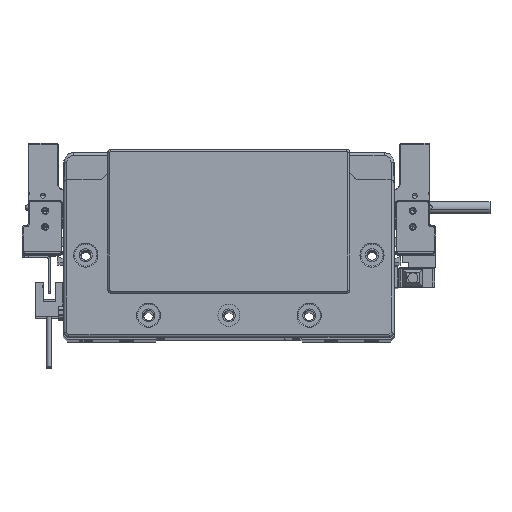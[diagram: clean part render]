
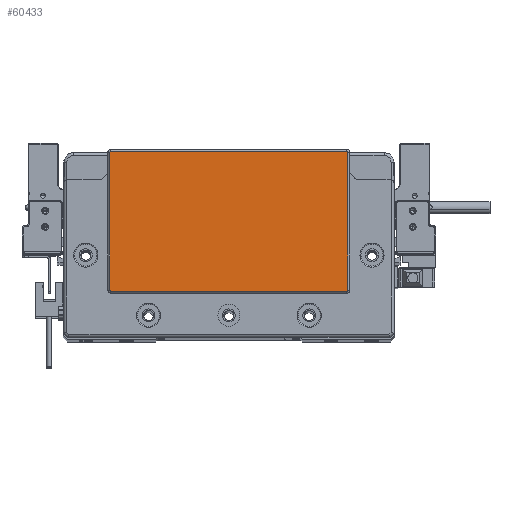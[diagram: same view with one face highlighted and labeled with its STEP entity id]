
A CAD part, top view. The second image highlights one B-rep face of the part: STEP entity #60433.
In plain terms, the highlighted planar face has unit normal (0, 0, 1) as drawn and (0, 0, -1) by its records, which use the part's own axes.
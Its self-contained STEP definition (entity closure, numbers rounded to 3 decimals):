
#516 = LINE ( 'NONE', #30900, #63708 ) ;
#1592 = AXIS2_PLACEMENT_3D ( 'NONE', #95795, #35033, #51690 ) ;
#1747 = DIRECTION ( 'NONE',  ( -1., 0., 0. ) ) ;
#3175 = CARTESIAN_POINT ( 'NONE',  ( -59.25, 45.3, -2. ) ) ;
#5016 = ORIENTED_EDGE ( 'NONE', *, *, #56062, .T. ) ;
#5344 = VERTEX_POINT ( 'NONE', #91702 ) ;
#6374 = EDGE_CURVE ( 'NONE', #33105, #37252, #24518, .T. ) ;
#6616 = DIRECTION ( 'NONE',  ( -1., 0., 0. ) ) ;
#6733 = CIRCLE ( 'NONE', #15841, 0.5 ) ;
#7093 = CARTESIAN_POINT ( 'NONE',  ( -58.75, 45.3, -2. ) ) ;
#7318 = CARTESIAN_POINT ( 'NONE',  ( -58.75, -23.8, -2. ) ) ;
#8324 = CIRCLE ( 'NONE', #94442, 0.5 ) ;
#9785 = CARTESIAN_POINT ( 'NONE',  ( 58.75, 45.3, -2. ) ) ;
#11529 = LINE ( 'NONE', #92416, #76314 ) ;
#12133 = VERTEX_POINT ( 'NONE', #89286 ) ;
#12392 = VERTEX_POINT ( 'NONE', #75537 ) ;
#14449 = DIRECTION ( 'NONE',  ( 0., 0., -1. ) ) ;
#15841 = AXIS2_PLACEMENT_3D ( 'NONE', #39476, #61987, #24742 ) ;
#17428 = DIRECTION ( 'NONE',  ( 0., 1., 0. ) ) ;
#18711 = ORIENTED_EDGE ( 'NONE', *, *, #61628, .T. ) ;
#20328 = VECTOR ( 'NONE', #1747, 1000. ) ;
#20397 = CARTESIAN_POINT ( 'NONE',  ( -58.75, -23.8, -2. ) ) ;
#22256 = FACE_OUTER_BOUND ( 'NONE', #47156, .T. ) ;
#24518 = CIRCLE ( 'NONE', #76167, 0.5 ) ;
#24742 = DIRECTION ( 'NONE',  ( -1., 0., 0. ) ) ;
#30900 = CARTESIAN_POINT ( 'NONE',  ( 58.75, 45.8, -2. ) ) ;
#33105 = VERTEX_POINT ( 'NONE', #86409 ) ;
#35033 = DIRECTION ( 'NONE',  ( 0., 0., -1. ) ) ;
#37252 = VERTEX_POINT ( 'NONE', #46054 ) ;
#38871 = ORIENTED_EDGE ( 'NONE', *, *, #86167, .T. ) ;
#39476 = CARTESIAN_POINT ( 'NONE',  ( -58.75, -23.3, -2. ) ) ;
#41851 = ORIENTED_EDGE ( 'NONE', *, *, #69123, .T. ) ;
#44373 = DIRECTION ( 'NONE',  ( -1., 0., 0. ) ) ;
#44796 = ORIENTED_EDGE ( 'NONE', *, *, #49480, .T. ) ;
#46054 = CARTESIAN_POINT ( 'NONE',  ( 58.75, -23.8, -2. ) ) ;
#47156 = EDGE_LOOP ( 'NONE', ( #5016, #49181, #41851, #89034, #44796, #18711, #38871, #96318 ) ) ;
#48458 = DIRECTION ( 'NONE',  ( 0., -1., 0. ) ) ;
#48498 = VERTEX_POINT ( 'NONE', #20397 ) ;
#49181 = ORIENTED_EDGE ( 'NONE', *, *, #6374, .T. ) ;
#49480 = EDGE_CURVE ( 'NONE', #5344, #74461, #11529, .T. ) ;
#50024 = CIRCLE ( 'NONE', #79769, 0.5 ) ;
#50231 = DIRECTION ( 'NONE',  ( 0., 0., -1. ) ) ;
#51690 = DIRECTION ( 'NONE',  ( -1., 0., 0. ) ) ;
#52961 = DIRECTION ( 'NONE',  ( 1., 0., 0. ) ) ;
#56062 = EDGE_CURVE ( 'NONE', #12392, #33105, #69995, .T. ) ;
#58587 = EDGE_CURVE ( 'NONE', #95279, #12392, #50024, .T. ) ;
#60433 = ADVANCED_FACE ( 'NONE', ( #22256 ), #65374, .T. ) ;
#61628 = EDGE_CURVE ( 'NONE', #74461, #12133, #8324, .T. ) ;
#61987 = DIRECTION ( 'NONE',  ( 0., 0., -1. ) ) ;
#63708 = VECTOR ( 'NONE', #52961, 1000. ) ;
#64083 = CARTESIAN_POINT ( 'NONE',  ( 59.25, -23.3, -2. ) ) ;
#65374 = PLANE ( 'NONE',  #1592 ) ;
#67146 = DIRECTION ( 'NONE',  ( 0., 0., -1. ) ) ;
#69123 = EDGE_CURVE ( 'NONE', #37252, #48498, #96991, .T. ) ;
#69995 = LINE ( 'NONE', #64083, #84041 ) ;
#74461 = VERTEX_POINT ( 'NONE', #3175 ) ;
#74739 = CARTESIAN_POINT ( 'NONE',  ( 58.75, -23.3, -2. ) ) ;
#75537 = CARTESIAN_POINT ( 'NONE',  ( 59.25, 45.3, -2. ) ) ;
#76167 = AXIS2_PLACEMENT_3D ( 'NONE', #74739, #14449, #44373 ) ;
#76314 = VECTOR ( 'NONE', #17428, 1000. ) ;
#79769 = AXIS2_PLACEMENT_3D ( 'NONE', #9785, #67146, #89699 ) ;
#83521 = CARTESIAN_POINT ( 'NONE',  ( 58.75, 45.8, -2. ) ) ;
#84041 = VECTOR ( 'NONE', #48458, 1000. ) ;
#86167 = EDGE_CURVE ( 'NONE', #12133, #95279, #516, .T. ) ;
#86409 = CARTESIAN_POINT ( 'NONE',  ( 59.25, -23.3, -2. ) ) ;
#89034 = ORIENTED_EDGE ( 'NONE', *, *, #92244, .T. ) ;
#89286 = CARTESIAN_POINT ( 'NONE',  ( -58.75, 45.8, -2. ) ) ;
#89699 = DIRECTION ( 'NONE',  ( -1., 0., 0. ) ) ;
#91702 = CARTESIAN_POINT ( 'NONE',  ( -59.25, -23.3, -2. ) ) ;
#92244 = EDGE_CURVE ( 'NONE', #48498, #5344, #6733, .T. ) ;
#92416 = CARTESIAN_POINT ( 'NONE',  ( -59.25, 45.3, -2. ) ) ;
#94442 = AXIS2_PLACEMENT_3D ( 'NONE', #7093, #50231, #6616 ) ;
#95279 = VERTEX_POINT ( 'NONE', #83521 ) ;
#95795 = CARTESIAN_POINT ( 'NONE',  ( 0., 0., -2. ) ) ;
#96318 = ORIENTED_EDGE ( 'NONE', *, *, #58587, .T. ) ;
#96991 = LINE ( 'NONE', #7318, #20328 ) ;
